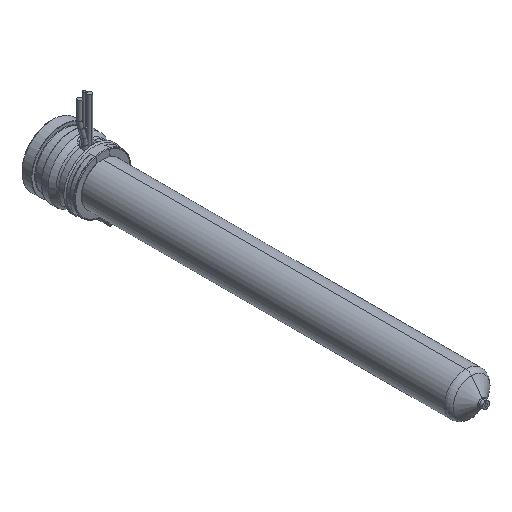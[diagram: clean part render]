
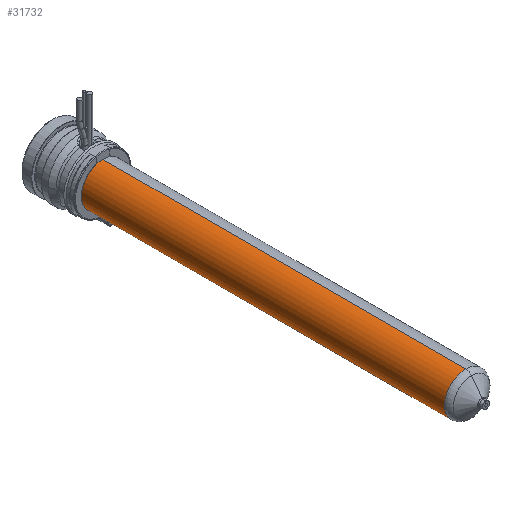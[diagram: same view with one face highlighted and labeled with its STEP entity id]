
A CAD part, isometric view. The second image highlights one B-rep face of the part: STEP entity #31732.
In plain terms, the highlighted cylindrical face has radius 9 mm (diameter 18 mm), a partial arc.
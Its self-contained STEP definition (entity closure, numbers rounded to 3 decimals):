
#31296=CARTESIAN_POINT('',(0.,-175.471,0.));
#31297=DIRECTION('',(0.,-1.,0.));
#31298=DIRECTION('',(0.,0.,1.));
#31299=AXIS2_PLACEMENT_3D('',#31296,#31297,#31298);
#31328=DIRECTION('',(0.,-1.,0.));
#31329=VECTOR('',#31328,153.471);
#31330=CARTESIAN_POINT('',(0.,-22.,9.));
#31331=LINE('',#31330,#31329);
#31343=DIRECTION('',(0.,-1.,0.));
#31344=VECTOR('',#31343,153.471);
#31345=CARTESIAN_POINT('',(0.,-22.,-9.));
#31346=LINE('',#31345,#31344);
#31350=CARTESIAN_POINT('',(0.,-22.,0.));
#31351=DIRECTION('',(0.,-1.,0.));
#31352=DIRECTION('',(0.,0.,1.));
#31353=AXIS2_PLACEMENT_3D('',#31350,#31351,#31352);
#31548=CARTESIAN_POINT('',(0.,-22.,9.));
#31549=CARTESIAN_POINT('',(0.,-175.471,9.));
#31550=VERTEX_POINT('',#31548);
#31551=VERTEX_POINT('',#31549);
#31560=CARTESIAN_POINT('',(0.,-22.,-9.));
#31561=CARTESIAN_POINT('',(0.,-175.471,-9.));
#31562=VERTEX_POINT('',#31560);
#31563=VERTEX_POINT('',#31561);
#31720=CARTESIAN_POINT('',(0.,-9.7,0.));
#31721=DIRECTION('',(0.,-1.,0.));
#31722=DIRECTION('',(0.,0.,1.));
#31723=AXIS2_PLACEMENT_3D('',#31720,#31721,#31722);
#31724=CYLINDRICAL_SURFACE('',#31723,9.);
#31725=ORIENTED_EDGE('',*,*,#31710,.T.);
#31726=ORIENTED_EDGE('',*,*,#31687,.T.);
#31727=ORIENTED_EDGE('',*,*,#31714,.F.);
#31729=ORIENTED_EDGE('',*,*,#31728,.F.);
#31730=EDGE_LOOP('',(#31725,#31726,#31727,#31729));
#31731=FACE_OUTER_BOUND('',#31730,.F.);
#31732=ADVANCED_FACE('',(#31731),#31724,.T.);
#31300=CIRCLE('',#31299,9.);
#31354=CIRCLE('',#31353,9.);
#31687=EDGE_CURVE('',#31551,#31563,#31300,.T.);
#31710=EDGE_CURVE('',#31550,#31551,#31331,.T.);
#31714=EDGE_CURVE('',#31562,#31563,#31346,.T.);
#31728=EDGE_CURVE('',#31550,#31562,#31354,.T.);
